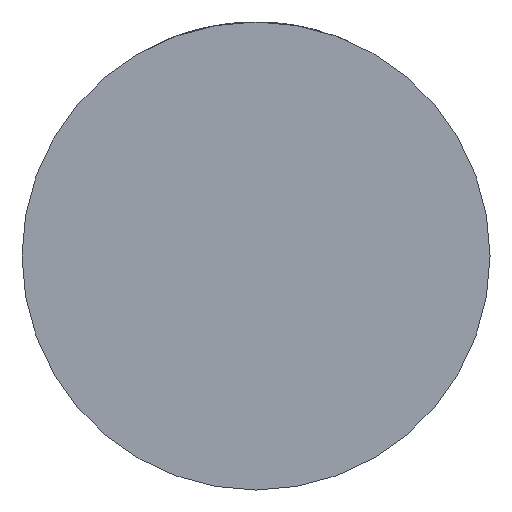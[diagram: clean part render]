
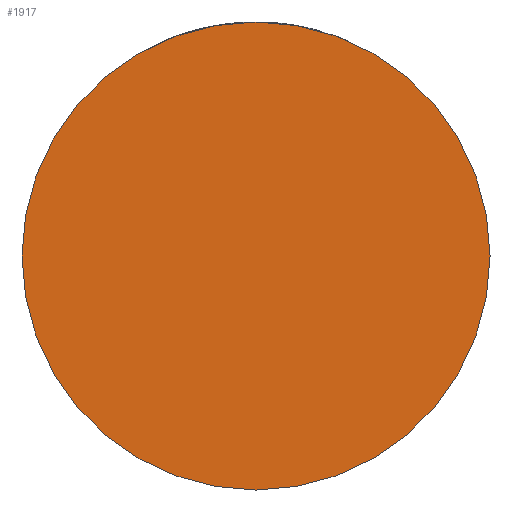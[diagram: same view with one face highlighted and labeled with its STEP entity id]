
A CAD part, front view. The second image highlights one B-rep face of the part: STEP entity #1917.
In plain terms, the highlighted planar face has unit normal (0, -1, 0).
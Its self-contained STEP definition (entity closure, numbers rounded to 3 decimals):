
#361 = DIRECTION ( 'NONE',  ( 1., 0., 0. ) ) ;
#459 = AXIS2_PLACEMENT_3D ( 'NONE', #2868, #2524, #4243 ) ;
#523 = AXIS2_PLACEMENT_3D ( 'NONE', #697, #723, #771 ) ;
#672 = FACE_OUTER_BOUND ( 'NONE', #2800, .T. ) ;
#697 = CARTESIAN_POINT ( 'NONE',  ( 0., -25., 0. ) ) ;
#723 = DIRECTION ( 'NONE',  ( 0., -1., 0. ) ) ;
#771 = DIRECTION ( 'NONE',  ( 1., 0., 0. ) ) ;
#817 = CIRCLE ( 'NONE', #2390, 32. ) ;
#916 = ORIENTED_EDGE ( 'NONE', *, *, #3282, .T. ) ;
#1064 = DIRECTION ( 'NONE',  ( 0., -1., 0. ) ) ;
#1450 = CARTESIAN_POINT ( 'NONE',  ( 0., -25., 0. ) ) ;
#1908 = VERTEX_POINT ( 'NONE', #4100 ) ;
#1917 = ADVANCED_FACE ( 'NONE', ( #672 ), #3200, .T. ) ;
#2290 = VERTEX_POINT ( 'NONE', #3631 ) ;
#2390 = AXIS2_PLACEMENT_3D ( 'NONE', #1450, #1064, #361 ) ;
#2522 = ORIENTED_EDGE ( 'NONE', *, *, #3339, .T. ) ;
#2524 = DIRECTION ( 'NONE',  ( 0., -1., 0. ) ) ;
#2800 = EDGE_LOOP ( 'NONE', ( #916, #2522 ) ) ;
#2868 = CARTESIAN_POINT ( 'NONE',  ( 0., -25., 0. ) ) ;
#3200 = PLANE ( 'NONE',  #459 ) ;
#3282 = EDGE_CURVE ( 'NONE', #2290, #1908, #817, .T. ) ;
#3339 = EDGE_CURVE ( 'NONE', #1908, #2290, #4404, .T. ) ;
#3631 = CARTESIAN_POINT ( 'NONE',  ( -32., -25., 0. ) ) ;
#4100 = CARTESIAN_POINT ( 'NONE',  ( 32., -25., 0. ) ) ;
#4243 = DIRECTION ( 'NONE',  ( 1., 0., 0. ) ) ;
#4404 = CIRCLE ( 'NONE', #523, 32. ) ;
